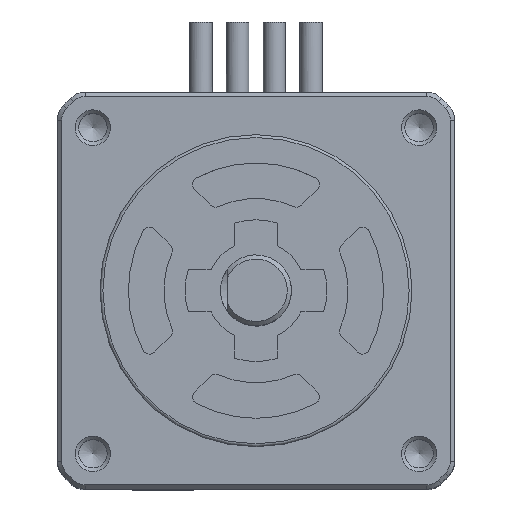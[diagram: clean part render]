
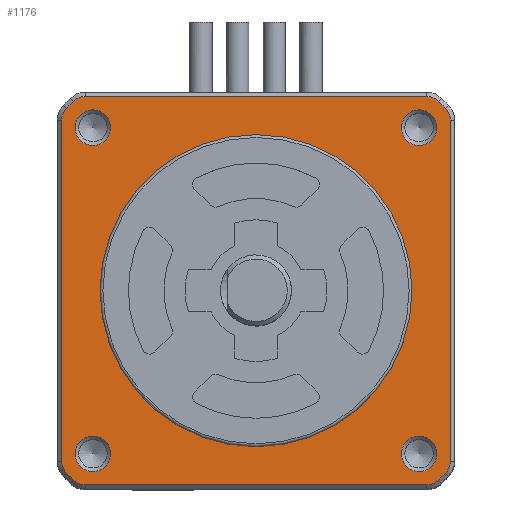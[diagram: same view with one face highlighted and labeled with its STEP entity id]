
A CAD part, top view. The second image highlights one B-rep face of the part: STEP entity #1176.
In plain terms, the highlighted planar face has unit normal (0, 0, 1).
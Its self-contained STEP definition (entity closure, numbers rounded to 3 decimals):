
#180=CARTESIAN_POINT('',(-12.032,13.7,3.5));
#181=VERTEX_POINT('',#180);
#188=CARTESIAN_POINT('',(12.032,13.7,3.5));
#189=VERTEX_POINT('',#188);
#190=CARTESIAN_POINT('',(-12.032,13.7,3.5));
#191=DIRECTION('',(1.0,0.0,0.0));
#192=VECTOR('',#191,24.064);
#193=LINE('',#190,#192);
#194=EDGE_CURVE('',#181,#189,#193,.T.);
#218=CARTESIAN_POINT('',(12.864,13.365,3.5));
#219=VERTEX_POINT('',#218);
#236=CARTESIAN_POINT('',(12.032,12.5,3.5));
#237=DIRECTION('',(0.0,0.0,-1.));
#238=DIRECTION('',(0.693,0.72,0.0));
#239=AXIS2_PLACEMENT_3D('',#236,#237,#238);
#240=CIRCLE('',#239,1.2);
#241=EDGE_CURVE('',#189,#219,#240,.T.);
#251=CARTESIAN_POINT('',(13.365,12.864,3.5));
#252=VERTEX_POINT('',#251);
#269=CARTESIAN_POINT('',(0.0,0.0,3.5));
#270=DIRECTION('',(0.0,0.0,-1.));
#271=DIRECTION('',(0.72,0.693,0.0));
#272=AXIS2_PLACEMENT_3D('',#269,#270,#271);
#273=CIRCLE('',#272,18.55);
#274=EDGE_CURVE('',#219,#252,#273,.T.);
#284=CARTESIAN_POINT('',(13.7,12.032,3.5));
#285=VERTEX_POINT('',#284);
#302=CARTESIAN_POINT('',(12.5,12.032,3.5));
#303=DIRECTION('',(0.0,0.0,-1.0));
#304=DIRECTION('',(1.0,0.0,0.0));
#305=AXIS2_PLACEMENT_3D('',#302,#303,#304);
#306=CIRCLE('',#305,1.2);
#307=EDGE_CURVE('',#252,#285,#306,.T.);
#317=CARTESIAN_POINT('',(13.7,-12.032,3.5));
#318=VERTEX_POINT('',#317);
#334=CARTESIAN_POINT('',(13.7,12.032,3.5));
#335=DIRECTION('',(0.0,-1.0,0.0));
#336=VECTOR('',#335,24.064);
#337=LINE('',#334,#336);
#338=EDGE_CURVE('',#285,#318,#337,.T.);
#348=CARTESIAN_POINT('',(13.365,-12.864,3.5));
#349=VERTEX_POINT('',#348);
#366=CARTESIAN_POINT('',(12.5,-12.032,3.5));
#367=DIRECTION('',(0.0,0.0,-1.0));
#368=DIRECTION('',(0.72,-0.693,0.0));
#369=AXIS2_PLACEMENT_3D('',#366,#367,#368);
#370=CIRCLE('',#369,1.2);
#371=EDGE_CURVE('',#318,#349,#370,.T.);
#381=CARTESIAN_POINT('',(12.864,-13.365,3.5));
#382=VERTEX_POINT('',#381);
#399=CARTESIAN_POINT('',(0.0,0.0,3.5));
#400=DIRECTION('',(0.0,0.0,-1.));
#401=DIRECTION('',(0.693,-0.72,0.0));
#402=AXIS2_PLACEMENT_3D('',#399,#400,#401);
#403=CIRCLE('',#402,18.55);
#404=EDGE_CURVE('',#349,#382,#403,.T.);
#414=CARTESIAN_POINT('',(12.032,-13.7,3.5));
#415=VERTEX_POINT('',#414);
#432=CARTESIAN_POINT('',(12.032,-12.5,3.5));
#433=DIRECTION('',(0.0,0.0,-1.0));
#434=DIRECTION('',(0.0,-1.0,0.0));
#435=AXIS2_PLACEMENT_3D('',#432,#433,#434);
#436=CIRCLE('',#435,1.2);
#437=EDGE_CURVE('',#382,#415,#436,.T.);
#447=CARTESIAN_POINT('',(-12.032,-13.7,3.5));
#448=VERTEX_POINT('',#447);
#464=CARTESIAN_POINT('',(12.032,-13.7,3.5));
#465=DIRECTION('',(-1.0,0.0,0.0));
#466=VECTOR('',#465,24.064);
#467=LINE('',#464,#466);
#468=EDGE_CURVE('',#415,#448,#467,.T.);
#478=CARTESIAN_POINT('',(-12.864,-13.365,3.5));
#479=VERTEX_POINT('',#478);
#496=CARTESIAN_POINT('',(-12.032,-12.5,3.5));
#497=DIRECTION('',(0.0,0.0,-1.));
#498=DIRECTION('',(-0.693,-0.72,0.0));
#499=AXIS2_PLACEMENT_3D('',#496,#497,#498);
#500=CIRCLE('',#499,1.2);
#501=EDGE_CURVE('',#448,#479,#500,.T.);
#511=CARTESIAN_POINT('',(-13.365,-12.864,3.5));
#512=VERTEX_POINT('',#511);
#529=CARTESIAN_POINT('',(0.0,0.0,3.5));
#530=DIRECTION('',(0.0,0.0,-1.));
#531=DIRECTION('',(-0.72,-0.693,0.0));
#532=AXIS2_PLACEMENT_3D('',#529,#530,#531);
#533=CIRCLE('',#532,18.55);
#534=EDGE_CURVE('',#479,#512,#533,.T.);
#544=CARTESIAN_POINT('',(-13.7,-12.032,3.5));
#545=VERTEX_POINT('',#544);
#562=CARTESIAN_POINT('',(-12.5,-12.032,3.5));
#563=DIRECTION('',(0.0,0.0,-1.0));
#564=DIRECTION('',(-1.0,0.0,0.0));
#565=AXIS2_PLACEMENT_3D('',#562,#563,#564);
#566=CIRCLE('',#565,1.2);
#567=EDGE_CURVE('',#512,#545,#566,.T.);
#577=CARTESIAN_POINT('',(-13.7,12.032,3.5));
#578=VERTEX_POINT('',#577);
#594=CARTESIAN_POINT('',(-13.7,-12.032,3.5));
#595=DIRECTION('',(0.0,1.0,0.0));
#596=VECTOR('',#595,24.064);
#597=LINE('',#594,#596);
#598=EDGE_CURVE('',#545,#578,#597,.T.);
#608=CARTESIAN_POINT('',(-13.365,12.864,3.5));
#609=VERTEX_POINT('',#608);
#626=CARTESIAN_POINT('',(-12.5,12.032,3.5));
#627=DIRECTION('',(0.0,0.0,-1.));
#628=DIRECTION('',(-0.72,0.693,0.0));
#629=AXIS2_PLACEMENT_3D('',#626,#627,#628);
#630=CIRCLE('',#629,1.2);
#631=EDGE_CURVE('',#578,#609,#630,.T.);
#641=CARTESIAN_POINT('',(-12.864,13.365,3.5));
#642=VERTEX_POINT('',#641);
#659=CARTESIAN_POINT('',(0.0,0.0,3.5));
#660=DIRECTION('',(0.0,0.0,-1.0));
#661=DIRECTION('',(-0.693,0.72,0.0));
#662=AXIS2_PLACEMENT_3D('',#659,#660,#661);
#663=CIRCLE('',#662,18.55);
#664=EDGE_CURVE('',#609,#642,#663,.T.);
#683=CARTESIAN_POINT('',(-12.032,12.5,3.5));
#684=DIRECTION('',(0.0,0.0,-1.0));
#685=DIRECTION('',(0.0,1.0,0.0));
#686=AXIS2_PLACEMENT_3D('',#683,#684,#685);
#687=CIRCLE('',#686,1.2);
#688=EDGE_CURVE('',#642,#181,#687,.T.);
#1098=CARTESIAN_POINT('',(0.,0.,3.5));
#1099=DIRECTION('',(0.0,0.0,1.0));
#1100=DIRECTION('',(1.0,0.0,0.0));
#1101=AXIS2_PLACEMENT_3D('',#1098,#1099,#1100);
#1102=PLANE('',#1101);
#1103=ORIENTED_EDGE('',*,*,#194,.F.);
#1104=ORIENTED_EDGE('',*,*,#688,.F.);
#1105=ORIENTED_EDGE('',*,*,#664,.F.);
#1106=ORIENTED_EDGE('',*,*,#631,.F.);
#1107=ORIENTED_EDGE('',*,*,#598,.F.);
#1108=ORIENTED_EDGE('',*,*,#567,.F.);
#1109=ORIENTED_EDGE('',*,*,#534,.F.);
#1110=ORIENTED_EDGE('',*,*,#501,.F.);
#1111=ORIENTED_EDGE('',*,*,#468,.F.);
#1112=ORIENTED_EDGE('',*,*,#437,.F.);
#1113=ORIENTED_EDGE('',*,*,#404,.F.);
#1114=ORIENTED_EDGE('',*,*,#371,.F.);
#1115=ORIENTED_EDGE('',*,*,#338,.F.);
#1116=ORIENTED_EDGE('',*,*,#307,.F.);
#1117=ORIENTED_EDGE('',*,*,#274,.F.);
#1118=ORIENTED_EDGE('',*,*,#241,.F.);
#1119=EDGE_LOOP('',(#1103,#1104,#1105,#1106,#1107,#1108,#1109,#1110,#1111,#1112,#1113,#1114,#1115,#1116,#1117,#1118));
#1120=FACE_OUTER_BOUND('',#1119,.T.);
#1121=CARTESIAN_POINT('',(11.0,0.,3.5));
#1122=VERTEX_POINT('',#1121);
#1123=CARTESIAN_POINT('',(0.0,0.0,3.5));
#1124=DIRECTION('',(0.0,0.0,-1.0));
#1125=DIRECTION('',(-1.0,0.0,0.0));
#1126=AXIS2_PLACEMENT_3D('',#1123,#1124,#1125);
#1127=CIRCLE('',#1126,11.0);
#1128=EDGE_CURVE('',#1122,#1122,#1127,.T.);
#1129=ORIENTED_EDGE('',*,*,#1128,.T.);
#1130=EDGE_LOOP('',(#1129));
#1131=FACE_BOUND('',#1130,.T.);
#1132=CARTESIAN_POINT('',(-10.25,11.5,3.5));
#1133=VERTEX_POINT('',#1132);
#1134=CARTESIAN_POINT('',(-11.5,11.5,3.5));
#1135=DIRECTION('',(0.0,0.0,-1.0));
#1136=DIRECTION('',(1.0,0.0,0.0));
#1137=AXIS2_PLACEMENT_3D('',#1134,#1135,#1136);
#1138=CIRCLE('',#1137,1.25);
#1139=EDGE_CURVE('',#1133,#1133,#1138,.T.);
#1140=ORIENTED_EDGE('',*,*,#1139,.T.);
#1141=EDGE_LOOP('',(#1140));
#1142=FACE_BOUND('',#1141,.T.);
#1143=CARTESIAN_POINT('',(12.75,11.5,3.5));
#1144=VERTEX_POINT('',#1143);
#1145=CARTESIAN_POINT('',(11.5,11.5,3.5));
#1146=DIRECTION('',(0.0,0.0,-1.0));
#1147=DIRECTION('',(1.0,0.0,0.0));
#1148=AXIS2_PLACEMENT_3D('',#1145,#1146,#1147);
#1149=CIRCLE('',#1148,1.25);
#1150=EDGE_CURVE('',#1144,#1144,#1149,.T.);
#1151=ORIENTED_EDGE('',*,*,#1150,.T.);
#1152=EDGE_LOOP('',(#1151));
#1153=FACE_BOUND('',#1152,.T.);
#1154=CARTESIAN_POINT('',(12.75,-11.5,3.5));
#1155=VERTEX_POINT('',#1154);
#1156=CARTESIAN_POINT('',(11.5,-11.5,3.5));
#1157=DIRECTION('',(0.0,0.0,-1.0));
#1158=DIRECTION('',(1.0,0.0,0.0));
#1159=AXIS2_PLACEMENT_3D('',#1156,#1157,#1158);
#1160=CIRCLE('',#1159,1.25);
#1161=EDGE_CURVE('',#1155,#1155,#1160,.T.);
#1162=ORIENTED_EDGE('',*,*,#1161,.T.);
#1163=EDGE_LOOP('',(#1162));
#1164=FACE_BOUND('',#1163,.T.);
#1165=CARTESIAN_POINT('',(-10.25,-11.5,3.5));
#1166=VERTEX_POINT('',#1165);
#1167=CARTESIAN_POINT('',(-11.5,-11.5,3.5));
#1168=DIRECTION('',(0.0,0.0,-1.0));
#1169=DIRECTION('',(1.0,0.0,0.0));
#1170=AXIS2_PLACEMENT_3D('',#1167,#1168,#1169);
#1171=CIRCLE('',#1170,1.25);
#1172=EDGE_CURVE('',#1166,#1166,#1171,.T.);
#1173=ORIENTED_EDGE('',*,*,#1172,.T.);
#1174=EDGE_LOOP('',(#1173));
#1175=FACE_BOUND('',#1174,.T.);
#1176=ADVANCED_FACE('',(#1120,#1131,#1142,#1153,#1164,#1175),#1102,.T.);
